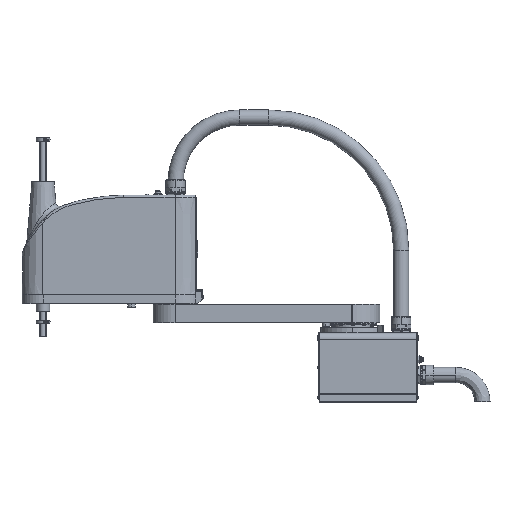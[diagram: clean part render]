
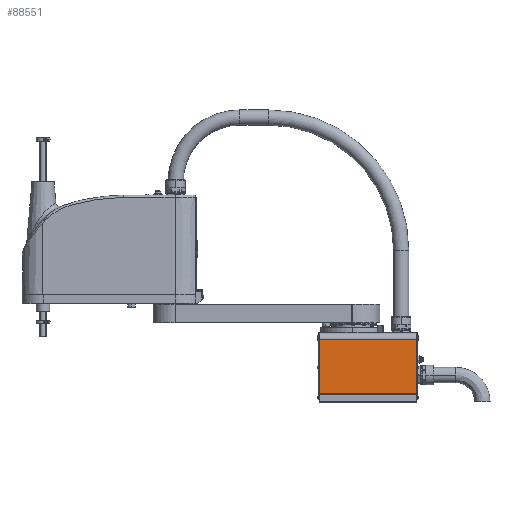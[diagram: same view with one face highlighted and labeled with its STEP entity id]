
A CAD part, top view. The second image highlights one B-rep face of the part: STEP entity #88551.
In plain terms, the highlighted planar face has unit normal (0, 0, -1).
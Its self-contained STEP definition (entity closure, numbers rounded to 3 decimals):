
#3957 = EDGE_CURVE ( 'NONE', #86520, #35925, #91485, .T. ) ;
#4871 = EDGE_CURVE ( 'NONE', #86520, #19473, #43652, .T. ) ;
#5229 = ORIENTED_EDGE ( 'NONE', *, *, #93081, .T. ) ;
#5548 = CARTESIAN_POINT ( 'NONE',  ( 145., 13.5, 85. ) ) ;
#15113 = CARTESIAN_POINT ( 'NONE',  ( -75., -124.5, 85. ) ) ;
#18176 = ORIENTED_EDGE ( 'NONE', *, *, #3957, .F. ) ;
#19473 = VERTEX_POINT ( 'NONE', #30930 ) ;
#30930 = CARTESIAN_POINT ( 'NONE',  ( 145., -1.5, 85. ) ) ;
#32596 = AXIS2_PLACEMENT_3D ( 'NONE', #5548, #67790, #83483 ) ;
#33635 = LINE ( 'NONE', #94867, #53277 ) ;
#35925 = VERTEX_POINT ( 'NONE', #15113 ) ;
#40189 = DIRECTION ( 'NONE',  ( 1., 0., 0. ) ) ;
#43186 = PLANE ( 'NONE',  #32596 ) ;
#43652 = LINE ( 'NONE', #58233, #87674 ) ;
#46990 = FACE_OUTER_BOUND ( 'NONE', #95340, .T. ) ;
#49860 = DIRECTION ( 'NONE',  ( 0., -1., 0. ) ) ;
#49896 = VECTOR ( 'NONE', #49860, 1000. ) ;
#50184 = LINE ( 'NONE', #69503, #80654 ) ;
#53277 = VECTOR ( 'NONE', #40189, 1000. ) ;
#58049 = CARTESIAN_POINT ( 'NONE',  ( -75., -126.5, 85. ) ) ;
#58233 = CARTESIAN_POINT ( 'NONE',  ( 145., -1.5, 85. ) ) ;
#63113 = ORIENTED_EDGE ( 'NONE', *, *, #87327, .F. ) ;
#67790 = DIRECTION ( 'NONE',  ( 0., 0., -1. ) ) ;
#69503 = CARTESIAN_POINT ( 'NONE',  ( 145., -126.5, 85. ) ) ;
#77074 = CARTESIAN_POINT ( 'NONE',  ( 145., -124.5, 85. ) ) ;
#80654 = VECTOR ( 'NONE', #100928, 1000. ) ;
#83483 = DIRECTION ( 'NONE',  ( -1., 0., 0. ) ) ;
#83708 = ORIENTED_EDGE ( 'NONE', *, *, #4871, .T. ) ;
#86520 = VERTEX_POINT ( 'NONE', #87353 ) ;
#87327 = EDGE_CURVE ( 'NONE', #35925, #100052, #33635, .T. ) ;
#87353 = CARTESIAN_POINT ( 'NONE',  ( -75., -1.5, 85. ) ) ;
#87674 = VECTOR ( 'NONE', #90004, 1000. ) ;
#88551 = ADVANCED_FACE ( 'NONE', ( #46990 ), #43186, .T. ) ;
#90004 = DIRECTION ( 'NONE',  ( 1., 0., 0. ) ) ;
#91485 = LINE ( 'NONE', #58049, #49896 ) ;
#93081 = EDGE_CURVE ( 'NONE', #19473, #100052, #50184, .T. ) ;
#94867 = CARTESIAN_POINT ( 'NONE',  ( -285.609, -124.5, 85. ) ) ;
#95340 = EDGE_LOOP ( 'NONE', ( #63113, #18176, #83708, #5229 ) ) ;
#100052 = VERTEX_POINT ( 'NONE', #77074 ) ;
#100928 = DIRECTION ( 'NONE',  ( 0., -1., 0. ) ) ;
